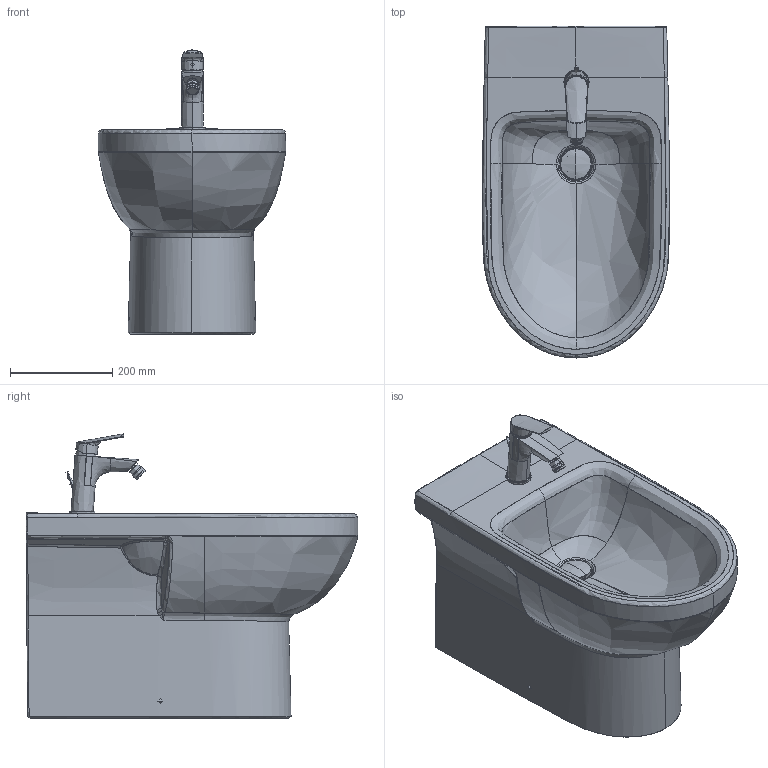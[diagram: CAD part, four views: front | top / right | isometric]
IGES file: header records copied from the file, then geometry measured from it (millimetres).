
Global section: file name: d:\users\matthias.isele\Desktop\Planungsdaten_erstellen\Duravit_No_1\229710\3D\229710.igs; native system: Rhinoceros ( Sep 13 2016 ); preprocessor: Trout Lake IGES 012 Sep 13 2016; date: 210920.120547; units: millimetre
Bounding box: 366.57 x 649.99 x 556.31 mm (x, y, z)
Surface area: 1507900.5 mm2 (no closed solid volume)
Topology: 0 solids, 0 shells, 630 faces, 5178 edges, 5158 vertices
Faces by surface type: bspline 630
